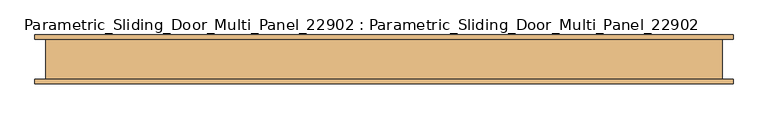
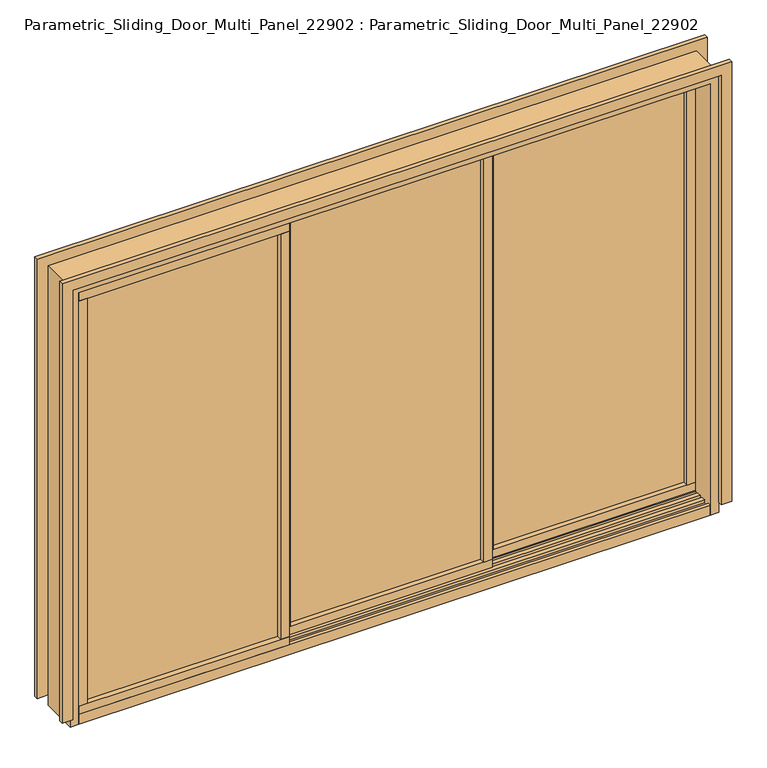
"""IFC4 building model written with IfcOpenShell, lengths in millimetres: door geometry, Parametric_Sliding_Door_Multi_Panel_22902 : Parametric_Sliding_Door_Multi_Panel_22902."""

from ifc_helpers import new_model, si_unit, frame, origin, origin_with_axes, place, context, project, spatial, polyline, outline, extrude, source, transform, mapped, element, save


def parametric_sliding_door_multi_panel_22902_parametric_sliding_059a3eb5(model_context):
    return source(origin(), model_context, "Body", "SweptSolid", [
        extrude(outline(polyline([(1454.6666667, 10.0), (1454.6666667, -5.0), (545.3333333, -5.0), (545.3333333, 10.0), (1454.6666667, 10.0)])), frame((0.0, 0.0, 40.0), z_axis=(0.0, 0.0, 1.0), x_axis=(1.0, 0.0, 0.0)), (0.0, 0.0, 1.0), 2013.6),
        extrude(outline(polyline([(1494.6666667, 30.1625), (1494.6666667, -30.1625), (1454.6666667, -30.1625), (1454.6666667, 30.1625), (1494.6666667, 30.1625)])), frame((0.0, 0.0, 40.0), z_axis=(0.0, 0.0, 1.0), x_axis=(1.0, 0.0, 0.0)), (0.0, 0.0, 1.0), 2013.6),
        extrude(outline(polyline([(545.3333333, 30.1625), (545.3333333, -30.1625), (505.3333333, -30.1625), (505.3333333, 30.1625), (545.3333333, 30.1625)])), frame((0.0, 0.0, 40.0), z_axis=(0.0, 0.0, 1.0), x_axis=(1.0, 0.0, 0.0)), (0.0, 0.0, 1.0), 2013.6),
        extrude(outline(polyline([(1494.6666667, -30.1625), (505.3333333, -30.1625), (505.3333333, 30.1625), (1494.6666667, 30.1625), (1494.6666667, -30.1625)])), origin_with_axes(), (0.0, 0.0, 1.0), 40.0),
        extrude(outline(polyline([(1494.6666667, -30.1625), (505.3333333, -30.1625), (505.3333333, 30.1625), (1494.6666667, 30.1625), (1494.6666667, -30.1625)])), frame((0.0, 0.0, 2053.6), z_axis=(0.0, 0.0, 1.0), x_axis=(1.0, 0.0, 0.0)), (0.0, 0.0, 1.0), 40.0),
        extrude(outline(polyline([(465.3333333, -50.325), (465.3333333, -65.325), (-444.0, -65.325), (-444.0, -50.325), (465.3333333, -50.325)])), frame((0.0, 0.0, 40.0), z_axis=(0.0, 0.0, 1.0), x_axis=(1.0, 0.0, 0.0)), (0.0, 0.0, 1.0), 2013.6),
        extrude(outline(polyline([(505.3333333, -30.1625), (505.3333333, -90.4875), (465.3333333, -90.4875), (465.3333333, -30.1625), (505.3333333, -30.1625)])), frame((0.0, 0.0, 40.0), z_axis=(0.0, 0.0, 1.0), x_axis=(1.0, 0.0, 0.0)), (0.0, 0.0, 1.0), 2013.6),
        extrude(outline(polyline([(-444.0, -30.1625), (-444.0, -90.4875), (-484.0, -90.4875), (-484.0, -30.1625), (-444.0, -30.1625)])), frame((0.0, 0.0, 40.0), z_axis=(0.0, 0.0, 1.0), x_axis=(1.0, 0.0, 0.0)), (0.0, 0.0, 1.0), 2013.6),
        extrude(outline(polyline([(505.3333333, -90.4875), (-484.0, -90.4875), (-484.0, -30.1625), (505.3333333, -30.1625), (505.3333333, -90.4875)])), origin_with_axes(), (0.0, 0.0, 1.0), 40.0),
        extrude(outline(polyline([(505.3333333, -90.4875), (-484.0, -90.4875), (-484.0, -30.1625), (505.3333333, -30.1625), (505.3333333, -90.4875)])), frame((0.0, 0.0, 2053.6), z_axis=(0.0, 0.0, 1.0), x_axis=(1.0, 0.0, 0.0)), (0.0, 0.0, 1.0), 40.0),
        extrude(outline(polyline([(2444.0, 70.325), (2444.0, 55.325), (1534.6666667, 55.325), (1534.6666667, 70.325), (2444.0, 70.325)])), frame((0.0, 0.0, 40.0), z_axis=(0.0, 0.0, 1.0), x_axis=(1.0, 0.0, 0.0)), (0.0, 0.0, 1.0), 2013.6),
        extrude(outline(polyline([(2484.0, 90.4875), (2484.0, 30.1625), (2444.0, 30.1625), (2444.0, 90.4875), (2484.0, 90.4875)])), frame((0.0, 0.0, 40.0), z_axis=(0.0, 0.0, 1.0), x_axis=(1.0, 0.0, 0.0)), (0.0, 0.0, 1.0), 2013.6),
        extrude(outline(polyline([(1534.6666667, 90.4875), (1534.6666667, 30.1625), (1494.6666667, 30.1625), (1494.6666667, 90.4875), (1534.6666667, 90.4875)])), frame((0.0, 0.0, 40.0), z_axis=(0.0, 0.0, 1.0), x_axis=(1.0, 0.0, 0.0)), (0.0, 0.0, 1.0), 2013.6),
        extrude(outline(polyline([(2484.0, 30.1625), (1494.6666667, 30.1625), (1494.6666667, 90.4875), (2484.0, 90.4875), (2484.0, 30.1625)])), origin_with_axes(), (0.0, 0.0, 1.0), 40.0),
        extrude(outline(polyline([(2484.0, 30.1625), (1494.6666667, 30.1625), (1494.6666667, 90.4875), (2484.0, 90.4875), (2484.0, 30.1625)])), frame((0.0, 0.0, 2053.6), z_axis=(0.0, 0.0, 1.0), x_axis=(1.0, 0.0, 0.0)), (0.0, 0.0, 1.0), 40.0),
        extrude(outline(polyline([(-90.4875, -50.0), (-90.4875, 0.0), (-75.0, 0.0), (-75.0, -15.0), (-45.0, -15.0), (-45.0, 0.0), (-25.0, 0.0), (-25.0, -15.0), (-10.0, -15.0), (-10.0, 0.0), (10.0, 0.0), (10.0, -15.0), (25.0, -15.0), (25.0, 0.0), (45.0, 0.0), (45.0, -15.0), (75.0, -15.0), (75.0, 0.0), (105.0, 0.0), (105.0, -50.0), (-90.4875, -50.0)])), frame((-484.0, 0.0, 0.0), z_axis=(1.0, 0.0, 0.0), x_axis=(0.0, 1.0, 0.0)), (0.0, 0.0, 1.0), 2968.0),
        extrude(outline(polyline([(2133.6, -524.0), (2133.6, 2524.0), (0.0, 2524.0), (0.0, 2574.0), (2183.6, 2574.0), (2183.6, -574.0), (0.0, -574.0), (0.0, -524.0), (2133.6, -524.0)])), frame((0.0, -110.4875, 0.0), z_axis=(0.0, 1.0, 0.0), x_axis=(0.0, 0.0, 1.0)), (0.0, 0.0, 1.0), 20.0),
        extrude(outline(polyline([(2183.6, -574.0), (0.0, -574.0), (0.0, -524.0), (2133.6, -524.0), (2133.6, 2524.0), (0.0, 2524.0), (0.0, 2574.0), (2183.6, 2574.0), (2183.6, -574.0)])), frame((0.0, 90.4875, 0.0), z_axis=(0.0, 1.0, 0.0), x_axis=(0.0, 0.0, 1.0)), (0.0, 0.0, 1.0), 20.0),
        extrude(outline(polyline([(-50.0, -484.0), (2093.6, -484.0), (2093.6, 2484.0), (-50.0, 2484.0), (-50.0, 2524.0), (2133.6, 2524.0), (2133.6, -524.0), (-50.0, -524.0), (-50.0, -484.0)])), frame((0.0, -90.4875, 0.0), z_axis=(0.0, 1.0, 0.0), x_axis=(0.0, 0.0, 1.0)), (0.0, 0.0, 1.0), 180.975),
    ])


if __name__ == "__main__":
    model = new_model("IFC4")
    model_context = context("Model", 3, world=origin())
    ifc_project = project(units=[si_unit("LENGTHUNIT", "METRE", prefix="MILLI")], contexts=[model_context])
    site = spatial("IfcSite", under=ifc_project)
    building = spatial("IfcBuilding", under=site)
    placement = place(None, origin())
    parametric_sliding_door_multi_panel_22902_parametric_sliding_shape = parametric_sliding_door_multi_panel_22902_parametric_sliding_059a3eb5(model_context)
    element("IfcDoor", 1, ObjectType="Parametric_Sliding_Door_Multi_Panel_22902 : Parametric_Sliding_Door_Multi_Panel_22902", at=placement, inside=building, context=model_context, shape_type="MappedRepresentation", body=[
        mapped(parametric_sliding_door_multi_panel_22902_parametric_sliding_shape, transform((0.0, 0.0, 0.0), x_axis=(1.0, 0.0, 0.0), y_axis=(0.0, 1.0, 0.0), z_axis=(0.0, 0.0, 1.0))),
    ])
    save(model, "model.ifc")
